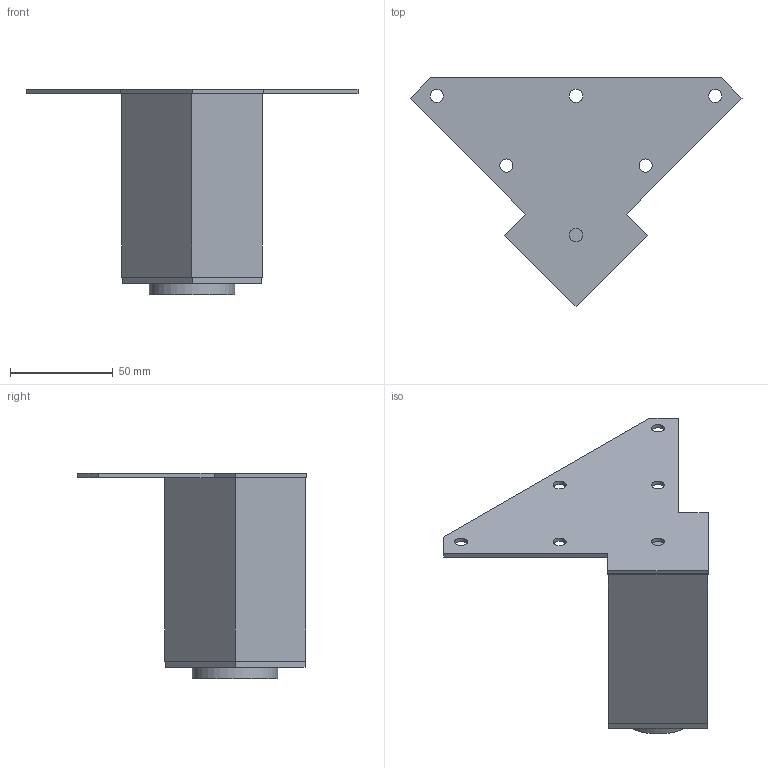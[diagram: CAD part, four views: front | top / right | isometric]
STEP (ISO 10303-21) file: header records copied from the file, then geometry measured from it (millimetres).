
FILE_DESCRIPTION( ( 'STEP AP214' ), '1' );
FILE_NAME( 'D:/Yug/2021/Delta/desk_and_office_organisation/QC/9206865.stp', '2021-01-20T05:58:56', ( '' ), ( '' ), ' ', 'PARTsolutions', ' ' );
FILE_SCHEMA( ( 'AUTOMOTIVE_DESIGN { 1 0 10303 214 1 1 1 1 }' ) );
Length unit declared in the file: millimetre
Products named in the file (1): _9206865
Bounding box: 161.93 x 111.37 x 100 mm (x, y, z)
Volume: 244070 mm3; surface area: 38076.7 mm2
Topology: 1 solids, 1 shells, 30 faces, 72 edges, 48 vertices
Faces by surface type: plane 23, cylinder 7
Full cylindrical faces by diameter (mm): 6.4 x6, 41.8 x1
Entity records: 1111 total; most frequent: CARTESIAN_POINT 144, DIRECTION 141, ORIENTED_EDGE 130, EDGE_CURVE 65, EDGE_LOOP 51, LINE 51, VECTOR 51, VERTEX_POINT 48
